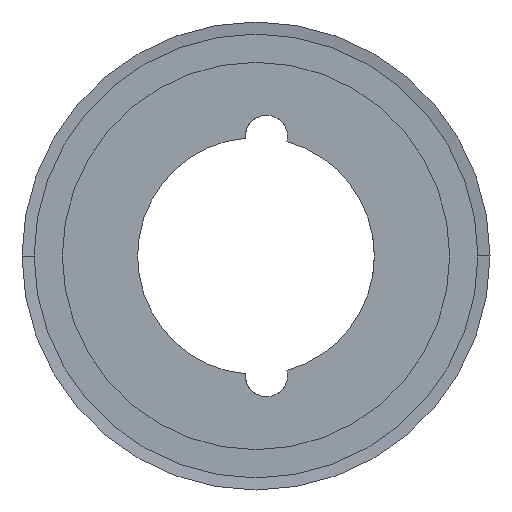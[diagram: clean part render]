
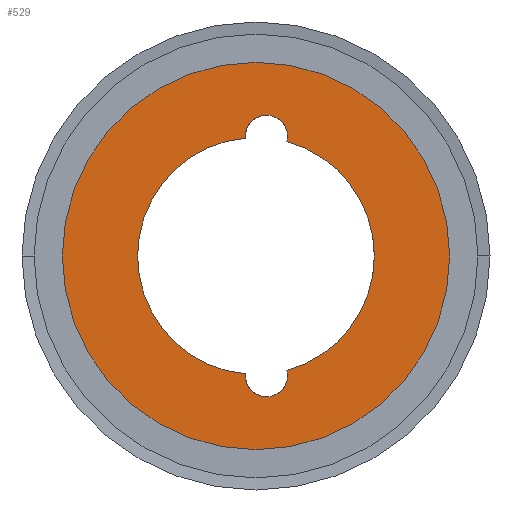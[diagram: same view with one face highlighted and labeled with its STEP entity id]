
A CAD part, left-side view. The second image highlights one B-rep face of the part: STEP entity #529.
In plain terms, the highlighted planar face has unit normal (-1, 0, 0).
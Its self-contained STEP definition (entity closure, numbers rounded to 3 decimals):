
#529 = ADVANCED_FACE( '', ( #1445, #1446 ), #1447, .T. );
#1445 = FACE_BOUND( '', #2362, .T. );
#1446 = FACE_OUTER_BOUND( '', #2363, .T. );
#1447 = PLANE( '', #2364 );
#2362 = EDGE_LOOP( '', ( #6383, #6384, #6385, #6386, #6387, #6388, #6389, #6390, #6391, #6392 ) );
#2363 = EDGE_LOOP( '', ( #6393, #6394 ) );
#2364 = AXIS2_PLACEMENT_3D( '', #6395, #6396, #6397 );
#6383 = ORIENTED_EDGE( '', *, *, #6459, .T. );
#6384 = ORIENTED_EDGE( '', *, *, #6462, .T. );
#6385 = ORIENTED_EDGE( '', *, *, #6461, .T. );
#6386 = ORIENTED_EDGE( '', *, *, #6454, .F. );
#6387 = ORIENTED_EDGE( '', *, *, #6466, .F. );
#6388 = ORIENTED_EDGE( '', *, *, #6469, .T. );
#6389 = ORIENTED_EDGE( '', *, *, #6445, .T. );
#6390 = ORIENTED_EDGE( '', *, *, #6440, .T. );
#6391 = ORIENTED_EDGE( '', *, *, #6467, .F. );
#6392 = ORIENTED_EDGE( '', *, *, #6452, .F. );
#6393 = ORIENTED_EDGE( '', *, *, #6401, .T. );
#6394 = ORIENTED_EDGE( '', *, *, #7731, .T. );
#6395 = CARTESIAN_POINT( '', ( 0., 29.001, 0. ) );
#6396 = DIRECTION( '', ( -1., 0., 0. ) );
#6397 = DIRECTION( '', ( 0., 1., 0. ) );
#6401 = EDGE_CURVE( '', #7733, #7737, #7739, .T. );
#6440 = EDGE_CURVE( '', #7805, #7808, #7810, .T. );
#6445 = EDGE_CURVE( '', #7812, #7805, #7819, .T. );
#6452 = EDGE_CURVE( '', #7830, #7820, #7832, .T. );
#6454 = EDGE_CURVE( '', #7833, #7836, #7837, .T. );
#6459 = EDGE_CURVE( '', #7830, #7843, #7845, .T. );
#6461 = EDGE_CURVE( '', #7846, #7836, #7848, .T. );
#6462 = EDGE_CURVE( '', #7843, #7846, #7849, .T. );
#6466 = EDGE_CURVE( '', #7852, #7833, #7854, .T. );
#6467 = EDGE_CURVE( '', #7820, #7808, #7855, .T. );
#6469 = EDGE_CURVE( '', #7852, #7812, #7857, .T. );
#7731 = EDGE_CURVE( '', #7737, #7733, #9951, .T. );
#7733 = VERTEX_POINT( '', #9953 );
#7737 = VERTEX_POINT( '', #9958 );
#7739 = CIRCLE( '', #9961, 36. );
#7805 = VERTEX_POINT( '', #10079 );
#7808 = VERTEX_POINT( '', #10083 );
#7810 = CIRCLE( '', #10092, 3.95 );
#7812 = VERTEX_POINT( '', #10094 );
#7819 = CIRCLE( '', #10116, 3.95 );
#7820 = VERTEX_POINT( '', #10117 );
#7830 = VERTEX_POINT( '', #10169 );
#7832 = CIRCLE( '', #10178, 22.002 );
#7833 = VERTEX_POINT( '', #10179 );
#7836 = VERTEX_POINT( '', #10183 );
#7837 = CIRCLE( '', #10184, 22.002 );
#7843 = VERTEX_POINT( '', #10204 );
#7845 = CIRCLE( '', #10207, 3.95 );
#7846 = VERTEX_POINT( '', #10208 );
#7848 = CIRCLE( '', #10211, 3.95 );
#7849 = CIRCLE( '', #10212, 3.95 );
#7852 = VERTEX_POINT( '', #10215 );
#7854 = CIRCLE( '', #10224, 22.002 );
#7855 = CIRCLE( '', #10225, 22.002 );
#7857 = CIRCLE( '', #10227, 3.95 );
#9951 = CIRCLE( '', #13049, 36. );
#9953 = CARTESIAN_POINT( '', ( 0., 36., 0. ) );
#9958 = CARTESIAN_POINT( '', ( 0., -36., 0. ) );
#9961 = AXIS2_PLACEMENT_3D( '', #13055, #13056, #13057 );
#10079 = CARTESIAN_POINT( '', ( 0., 2.013, -22.22 ) );
#10083 = CARTESIAN_POINT( '', ( 0., 2.001, -21.911 ) );
#10092 = AXIS2_PLACEMENT_3D( '', #13125, #13126, #13127 );
#10094 = CARTESIAN_POINT( '', ( 0., -5.887, -22.22 ) );
#10116 = AXIS2_PLACEMENT_3D( '', #13132, #13133, #13134 );
#10117 = CARTESIAN_POINT( '', ( 0., 22.002, 0. ) );
#10169 = CARTESIAN_POINT( '', ( 0., 2.001, 21.911 ) );
#10178 = AXIS2_PLACEMENT_3D( '', #13139, #13140, #13141 );
#10179 = CARTESIAN_POINT( '', ( 0., -22.002, 0. ) );
#10183 = CARTESIAN_POINT( '', ( 0., -5.762, 21.234 ) );
#10184 = AXIS2_PLACEMENT_3D( '', #13143, #13144, #13145 );
#10204 = CARTESIAN_POINT( '', ( 0., 2.013, 22.22 ) );
#10207 = AXIS2_PLACEMENT_3D( '', #13150, #13151, #13152 );
#10208 = CARTESIAN_POINT( '', ( 0., -5.887, 22.22 ) );
#10211 = AXIS2_PLACEMENT_3D( '', #13154, #13155, #13156 );
#10212 = AXIS2_PLACEMENT_3D( '', #13157, #13158, #13159 );
#10215 = CARTESIAN_POINT( '', ( 0., -5.762, -21.234 ) );
#10224 = AXIS2_PLACEMENT_3D( '', #13166, #13167, #13168 );
#10225 = AXIS2_PLACEMENT_3D( '', #13169, #13170, #13171 );
#10227 = AXIS2_PLACEMENT_3D( '', #13175, #13176, #13177 );
#13049 = AXIS2_PLACEMENT_3D( '', #15505, #15506, #15507 );
#13055 = CARTESIAN_POINT( '', ( 0., 0., 0. ) );
#13056 = DIRECTION( '', ( -1., 0., 0. ) );
#13057 = DIRECTION( '', ( 0., 1., 0. ) );
#13125 = CARTESIAN_POINT( '', ( 0., -1.937, -22.22 ) );
#13126 = DIRECTION( '', ( 1., 0., 0. ) );
#13127 = DIRECTION( '', ( 0., -1., 0. ) );
#13132 = CARTESIAN_POINT( '', ( 0., -1.937, -22.22 ) );
#13133 = DIRECTION( '', ( 1., 0., 0. ) );
#13134 = DIRECTION( '', ( 0., -1., 0. ) );
#13139 = CARTESIAN_POINT( '', ( 0., 0., 0. ) );
#13140 = DIRECTION( '', ( -1., 0., 0. ) );
#13141 = DIRECTION( '', ( 0., 1., 0. ) );
#13143 = CARTESIAN_POINT( '', ( 0., 0., 0. ) );
#13144 = DIRECTION( '', ( -1., 0., 0. ) );
#13145 = DIRECTION( '', ( 0., 1., 0. ) );
#13150 = CARTESIAN_POINT( '', ( 0., -1.937, 22.22 ) );
#13151 = DIRECTION( '', ( 1., 0., 0. ) );
#13152 = DIRECTION( '', ( 0., -1., 0. ) );
#13154 = CARTESIAN_POINT( '', ( 0., -1.937, 22.22 ) );
#13155 = DIRECTION( '', ( 1., 0., 0. ) );
#13156 = DIRECTION( '', ( 0., -1., 0. ) );
#13157 = CARTESIAN_POINT( '', ( 0., -1.937, 22.22 ) );
#13158 = DIRECTION( '', ( 1., 0., 0. ) );
#13159 = DIRECTION( '', ( 0., -1., 0. ) );
#13166 = CARTESIAN_POINT( '', ( 0., 0., 0. ) );
#13167 = DIRECTION( '', ( -1., 0., 0. ) );
#13168 = DIRECTION( '', ( 0., 1., 0. ) );
#13169 = CARTESIAN_POINT( '', ( 0., 0., 0. ) );
#13170 = DIRECTION( '', ( -1., 0., 0. ) );
#13171 = DIRECTION( '', ( 0., 1., 0. ) );
#13175 = CARTESIAN_POINT( '', ( 0., -1.937, -22.22 ) );
#13176 = DIRECTION( '', ( 1., 0., 0. ) );
#13177 = DIRECTION( '', ( 0., -1., 0. ) );
#15505 = CARTESIAN_POINT( '', ( 0., 0., 0. ) );
#15506 = DIRECTION( '', ( -1., 0., 0. ) );
#15507 = DIRECTION( '', ( 0., 1., 0. ) );
